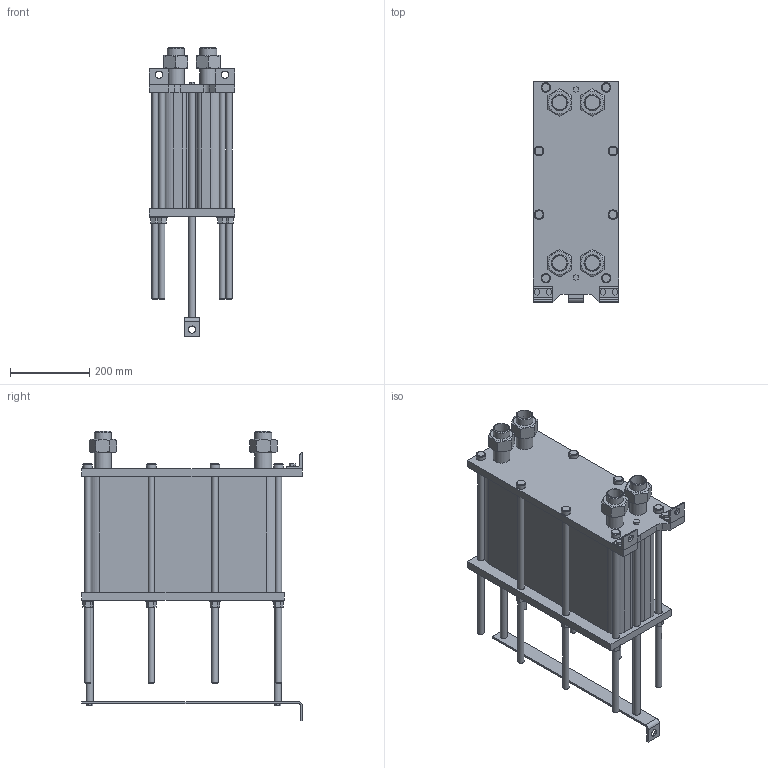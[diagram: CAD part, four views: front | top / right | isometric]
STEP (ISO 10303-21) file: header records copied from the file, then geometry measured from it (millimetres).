
FILE_DESCRIPTION(/* description */ (''),/* implementation_level */ '2;1');
FILE_NAME(/* name */ 'C:\Users\zhuro\Desktop\ENCO\TO\ЭН-004\ЭН-0,5-004-94-1.stp',/* time_stamp */ '2022-06-06T10:51:43+03:00',/* author */ ('zhuro'),/* organization */ (''),/* preprocessor_version */ 'ST-DEVELOPER v18.1',/* originating_system */ 'Autodesk Inventor 2022',/* authorisation */ '');
FILE_SCHEMA (('AUTOMOTIVE_DESIGN { 1 0 10303 214 3 1 1 }'));
Length unit declared in the file: millimetre
Products named in the file (1): ЭН-0,5-004-94-1
Bounding box: 216 x 555 x 728.2 mm (x, y, z)
Volume: 27587354.2 mm3; surface area: 1589666.3 mm2
Topology: 40 solids, 40 shells, 403 faces, 865 edges, 574 vertices
Faces by surface type: plane 272, cylinder 103, cone 28
Full cylindrical faces by diameter (mm): 10 x4, 16 x16, 18 x29, 20 x2, 24 x8, 28 x8, 36.3 x5, 42.3 x9
Entity records: 11137 total; most frequent: CARTESIAN_POINT 1939, DIRECTION 1879, ORIENTED_EDGE 1730, EDGE_CURVE 865, AXIS2_PLACEMENT_3D 658, VERTEX_POINT 574, LINE 563, VECTOR 563
